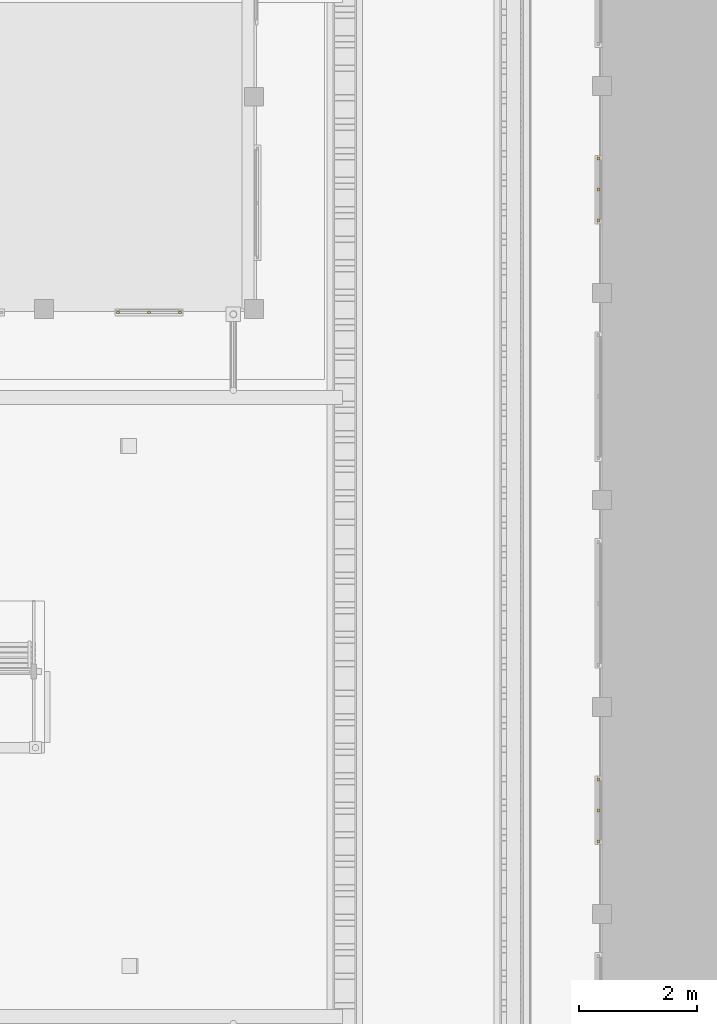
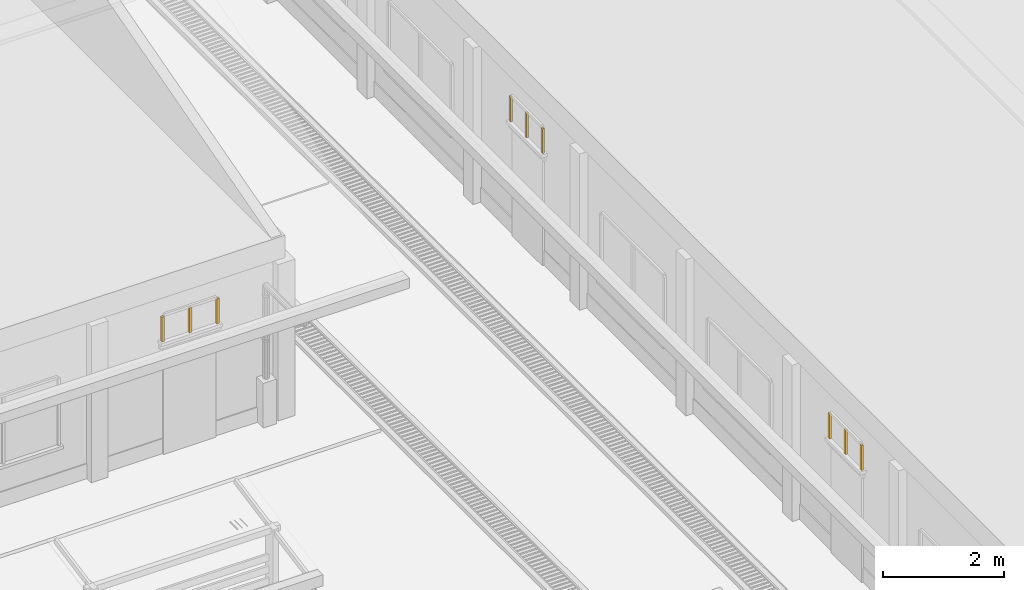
# One storey, part 83 of 151: 9 windows.
"""IFC2X3 building model written with IfcOpenShell, lengths in metres."""

import ifcopenshell
import ifcopenshell.guid

model = None  # the IFC model being written
_history = None  # IfcOwnerHistory: only IFC2X3 demands one
_inside = {}  # id of a spatial element -> (the spatial element, [elements in it])
_under = {}  # id of a project, library or spatial element -> (it, [spatial elements below it])
_declared = {}  # id of a project -> (the project, [libraries it declares])
_typed = {}  # id of a type object -> (the type object, [elements of that type])
_made_of = {}  # id of a material, layer set ... -> (it, [elements and type objects made of it])


def new_model(schema):
    """Start an empty IFC model of exactly this schema.

    Asked for "IFC4X3", IfcOpenShell would pick the latest addendum, in which some entities
    have other attributes; the version numbers below select the first issue.
    IFC2X3 requires an IfcOwnerHistory on every rooted entity: one is made here for all.
    """
    global model, _history
    if schema == "IFC4X3":
        model = ifcopenshell.file(schema_version=(4, 3, 0, 0))
    else:
        model = ifcopenshell.file(schema=schema)
    _inside.clear()
    _under.clear()
    _declared.clear()
    _typed.clear()
    _made_of.clear()
    _history = None
    if model.schema == "IFC2X3":
        org = make("IfcOrganization", Name="unknown")
        user = make(
            "IfcPersonAndOrganization",
            ThePerson=make("IfcPerson", FamilyName="unknown"),
            TheOrganization=org,
        )
        app = make(
            "IfcApplication",
            ApplicationDeveloper=org,
            Version="unknown",
            ApplicationFullName="unknown",
            ApplicationIdentifier="unknown",
        )
        _history = make(
            "IfcOwnerHistory",
            OwningUser=user,
            OwningApplication=app,
            ChangeAction="ADDED",
            CreationDate=0,
        )
    return model


def make(cls, **values):
    """One entity of the class cls with the attributes given. An attribute that is None is left unset."""
    return model.create_entity(
        cls, **{name: value for name, value in values.items() if value is not None}
    )


def rooted(cls, **values):
    """An entity with a GlobalId (a new one), such as an element, a storey or a relation."""
    return make(cls, GlobalId=ifcopenshell.guid.new(), OwnerHistory=_history, **values)


def si_unit(unit_type, name, prefix=None):
    """IfcSIUnit, for example si_unit("LENGTHUNIT", "METRE", prefix="MILLI")."""
    return make("IfcSIUnit", UnitType=unit_type, Prefix=prefix, Name=name)


def assignment(units):
    """IfcUnitAssignment: the units of a project."""
    return None if units is None else make("IfcUnitAssignment", Units=units)


def point(xyz):
    """IfcCartesianPoint."""
    return None if xyz is None else make("IfcCartesianPoint", Coordinates=xyz)


def direction(xyz):
    """IfcDirection."""
    return None if xyz is None else make("IfcDirection", DirectionRatios=xyz)


def frame(location, z_axis=None, x_axis=None):
    """IfcAxis2Placement3D, a coordinate frame: its origin and axes. An axis left out is left unset."""
    return make(
        "IfcAxis2Placement3D",
        Location=point(location),
        Axis=direction(z_axis),
        RefDirection=direction(x_axis),
    )


def origin():
    """The frame at (0, 0, 0) with its axes left unset."""
    return frame((0.0, 0.0, 0.0))


def origin_with_axes():
    """The frame at (0, 0, 0) with the z axis (0, 0, 1) and the x axis (1, 0, 0) written out."""
    return frame((0.0, 0.0, 0.0), z_axis=(0.0, 0.0, 1.0), x_axis=(1.0, 0.0, 0.0))


def place(relative_to, where):
    """IfcLocalPlacement: puts the frame where relative to a parent placement (None: the world)."""
    return make(
        "IfcLocalPlacement", PlacementRelTo=relative_to, RelativePlacement=where
    )


def context(
    kind, dimensions, precision=None, world=None, true_north=None, identifier=None
):
    """IfcGeometricRepresentationContext, for example the 3D "Model" context."""
    return make(
        "IfcGeometricRepresentationContext",
        ContextIdentifier=identifier,
        ContextType=kind,
        CoordinateSpaceDimension=dimensions,
        Precision=precision,
        WorldCoordinateSystem=world,
        TrueNorth=true_north,
    )


def subcontext(parent, identifier, kind, view, scale=None):
    """IfcGeometricRepresentationSubContext, for example "Body" below "Model"."""
    return make(
        "IfcGeometricRepresentationSubContext",
        ContextIdentifier=identifier,
        ContextType=kind,
        ParentContext=parent,
        TargetScale=scale,
        TargetView=view,
    )


def project(units=None, contexts=None):
    """IfcProject with its units and contexts."""
    return rooted(
        "IfcProject",
        Name="project",
        RepresentationContexts=contexts,
        UnitsInContext=assignment(units),
    )


def spatial(cls, under=None, at=None, **own):
    """A site, building, storey or space (cls), placed at a placement, below another one or the project."""
    s = rooted(cls, ObjectPlacement=at, **own)
    if under is not None:
        _under.setdefault(under.id(), (under, []))[1].append(s)
    return s


def faces_of(points, faces, orient=None, outer=None):
    """IfcFace entities. A face is a list of loops; a loop is a list of indices into points, from 0.

    orient and outer hold one flag for each loop. By default every Orientation is true, the
    first loop of a face is its IfcFaceOuterBound and the others are IfcFaceBound.
    """
    made = []
    for i, loops in enumerate(faces):
        bounds = []
        for j, loop in enumerate(loops):
            is_outer = j == 0 if outer is None else outer[i][j]
            bounds.append(
                make(
                    "IfcFaceOuterBound" if is_outer else "IfcFaceBound",
                    Bound=make("IfcPolyLoop", Polygon=[points[k] for k in loop]),
                    Orientation=True if orient is None else orient[i][j],
                )
            )
        made.append(make("IfcFace", Bounds=bounds))
    return made


def faceted_brep(points, faces, orient=None, outer=None, voids=None):
    """IfcFacetedBrep: a solid bounded by flat faces; with voids (closed shells), ...WithVoids."""
    shared = [point(p) for p in points]
    hull = make("IfcClosedShell", CfsFaces=faces_of(shared, faces, orient, outer))
    if voids is None:
        return make("IfcFacetedBrep", Outer=hull)
    return make(
        "IfcFacetedBrepWithVoids",
        Outer=hull,
        Voids=[
            make(cls, CfsFaces=faces_of(shared, fs, o, b)) for cls, fs, o, b in voids
        ],
    )


def shape(context_of_items, identifier, shape_type, items):
    """IfcShapeRepresentation: the items that make up one representation, for example the "Body"."""
    return make(
        "IfcShapeRepresentation",
        ContextOfItems=context_of_items,
        RepresentationIdentifier=identifier,
        RepresentationType=shape_type,
        Items=items,
    )


def made_of(thing, what):
    """Note that an element or type object is made of a material, layer set ...; save() writes the relation."""
    if what is not None:
        _made_of.setdefault(what.id(), (what, []))[1].append(thing)
    return thing


def element(
    cls,
    number,
    at=None,
    inside=None,
    cuts=None,
    type_object=None,
    material=None,
    context=None,
    identifier="Body",
    shape_type=None,
    held_by="IfcProductDefinitionShape",
    body=None,
    shapes=None,
    **own,
):
    """One element of the class cls, such as IfcWall. Its Tag is "e" and its number.

    at: its placement. inside: the storey or other place that contains it. cuts: it is an
    opening in that element (IfcRelVoidsElement). A single representation is given by context,
    identifier, shape_type and body (its items); several are given by shapes. held_by: the class
    of the entity that holds the representations. save() writes the other relations.
    """
    e = rooted(cls, Tag="e%d" % number, ObjectPlacement=at, **own)
    if body is not None:
        shapes = [shape(context, identifier, shape_type, body)]
    if shapes is not None:
        e.Representation = make(held_by, Representations=shapes)
    if inside is not None:
        _inside.setdefault(inside.id(), (inside, []))[1].append(e)
    if cuts is not None:
        rooted(
            "IfcRelVoidsElement", RelatingBuildingElement=cuts, RelatedOpeningElement=e
        )
    if type_object is not None:
        _typed.setdefault(type_object.id(), (type_object, []))[1].append(e)
    return made_of(e, material)


def aggregate(whole, parts):
    """IfcRelAggregates: a whole, such as a stair, and the parts it consists of."""
    return rooted("IfcRelAggregates", RelatingObject=whole, RelatedObjects=parts)


def save(model, path):
    """Write the relations noted so far, then the file.

    IfcRelAggregates (storeys below a building ...), IfcRelContainedInSpatialStructure (elements
    in a storey), IfcRelDefinesByType, IfcRelAssociatesMaterial and IfcRelDeclares: one each for
    every whole, place, type object, material and project.
    """
    for whole, parts in _under.values():
        aggregate(whole, parts)
    for where, things in _inside.values():
        rooted(
            "IfcRelContainedInSpatialStructure",
            RelatedElements=things,
            RelatingStructure=where,
        )
    for kind, things in _typed.values():
        rooted("IfcRelDefinesByType", RelatedObjects=things, RelatingType=kind)
    for what, things in _made_of.values():
        rooted("IfcRelAssociatesMaterial", RelatedObjects=things, RelatingMaterial=what)
    for by, libraries in _declared.values():
        rooted("IfcRelDeclares", RelatingContext=by, RelatedDefinitions=libraries)
    model.write(path)


model = new_model("IFC2X3")

# Units and contexts
model_context = context("Model", 3, precision=1e-05, world=origin_with_axes())
body_context = subcontext(model_context, "Body", "Model", "MODEL_VIEW")
ifc_project = project(units=[si_unit("LENGTHUNIT", "METRE"), si_unit("AREAUNIT", "SQUARE_METRE"), si_unit("VOLUMEUNIT", "CUBIC_METRE"), si_unit("PLANEANGLEUNIT", "RADIAN")], contexts=[model_context])

# Site, building, storey
site_placement = place(None, origin_with_axes())
site = spatial("IfcSite", under=ifc_project, at=site_placement, Name="Predio Los Mangos - Morales, San Martín", CompositionType="ELEMENT")
building_placement = place(site_placement, origin())
building = spatial("IfcBuilding", under=site, at=building_placement, Name="Hogar de Refugio Temporal", CompositionType="ELEMENT")
storey_placement = place(building_placement, origin())
storey = spatial("IfcBuildingStorey", under=building, at=storey_placement, Name="NIVEL 1 (NPT +0.00)", CompositionType="ELEMENT", Elevation=0.0)

# Windows
window_1_placement = place(storey_placement, origin())
element("IfcWindow", 1, at=window_1_placement, inside=storey, Name="E-08_vt4_m", ObjectType="Ventana", context=body_context, shape_type="Brep", body=[
    faceted_brep([(47.47, 116.92, 2.45), (47.47, 116.96, 2.45), (47.52, 116.96, 2.45), (47.52, 116.92, 2.45), (47.47, 116.92, 2.95), (47.52, 116.92, 2.95), (47.52, 116.96, 2.95), (47.47, 116.96, 2.95)], [[[0, 1, 2, 3]], [[4, 5, 6, 7]], [[0, 3, 5, 4]], [[3, 2, 6, 5]], [[2, 1, 7, 6]], [[1, 0, 4, 7]]]),
])
window_2_placement = place(storey_placement, origin())
element("IfcWindow", 2, at=window_2_placement, inside=storey, Name="E-08_vt4_m", ObjectType="Ventana", context=body_context, shape_type="Brep", body=[
    faceted_brep([(48.52, 116.92, 2.45), (48.52, 116.96, 2.45), (48.57, 116.96, 2.45), (48.57, 116.92, 2.45), (48.52, 116.92, 2.95), (48.57, 116.92, 2.95), (48.57, 116.96, 2.95), (48.52, 116.96, 2.95)], [[[0, 1, 2, 3]], [[4, 5, 6, 7]], [[0, 3, 5, 4]], [[3, 2, 6, 5]], [[2, 1, 7, 6]], [[1, 0, 4, 7]]]),
])
window_3_placement = place(storey_placement, origin())
element("IfcWindow", 3, at=window_3_placement, inside=storey, Name="E-08_vt4_m", ObjectType="Ventana", context=body_context, shape_type="Brep", body=[
    faceted_brep([(47.995, 116.92, 2.45), (47.995, 116.96, 2.45), (48.045, 116.96, 2.45), (48.045, 116.92, 2.45), (47.995, 116.92, 2.95), (48.045, 116.92, 2.95), (48.045, 116.96, 2.95), (47.995, 116.96, 2.95)], [[[0, 1, 2, 3]], [[4, 5, 6, 7]], [[0, 3, 5, 4]], [[3, 2, 6, 5]], [[2, 1, 7, 6]], [[1, 0, 4, 7]]]),
])
window_4_placement = place(storey_placement, origin())
element("IfcWindow", 4, at=window_4_placement, inside=storey, Name="E-07_vt4_m", ObjectType="Ventana", context=body_context, shape_type="Brep", body=[
    faceted_brep([(55.62, 107.945, 2.45), (55.62, 107.995, 2.45), (55.66, 107.995, 2.45), (55.66, 107.945, 2.45), (55.62, 107.945, 2.95), (55.66, 107.945, 2.95), (55.66, 107.995, 2.95), (55.62, 107.995, 2.95)], [[[0, 1, 2, 3]], [[4, 5, 6, 7]], [[0, 3, 5, 4]], [[3, 2, 6, 5]], [[2, 1, 7, 6]], [[1, 0, 4, 7]]]),
])
window_5_placement = place(storey_placement, origin())
element("IfcWindow", 5, at=window_5_placement, inside=storey, Name="E-07_vt4_m", ObjectType="Ventana", context=body_context, shape_type="Brep", body=[
    faceted_brep([(55.62, 108.995, 2.45), (55.62, 109.045, 2.45), (55.66, 109.045, 2.45), (55.66, 108.995, 2.45), (55.62, 108.995, 2.95), (55.66, 108.995, 2.95), (55.66, 109.045, 2.95), (55.62, 109.045, 2.95)], [[[0, 1, 2, 3]], [[4, 5, 6, 7]], [[0, 3, 5, 4]], [[3, 2, 6, 5]], [[2, 1, 7, 6]], [[1, 0, 4, 7]]]),
])
window_6_placement = place(storey_placement, origin())
element("IfcWindow", 6, at=window_6_placement, inside=storey, Name="E-07_vt4_m", ObjectType="Ventana", context=body_context, shape_type="Brep", body=[
    faceted_brep([(55.62, 108.47, 2.45), (55.62, 108.52, 2.45), (55.66, 108.52, 2.45), (55.66, 108.47, 2.45), (55.62, 108.47, 2.95), (55.66, 108.47, 2.95), (55.66, 108.52, 2.95), (55.62, 108.52, 2.95)], [[[0, 1, 2, 3]], [[4, 5, 6, 7]], [[0, 3, 5, 4]], [[3, 2, 6, 5]], [[2, 1, 7, 6]], [[1, 0, 4, 7]]]),
])
window_7_placement = place(storey_placement, origin())
element("IfcWindow", 7, at=window_7_placement, inside=storey, Name="E-07_vt7_m", ObjectType="Ventana", context=body_context, shape_type="Brep", body=[
    faceted_brep([(55.62, 118.475, 2.45), (55.62, 118.525, 2.45), (55.66, 118.525, 2.45), (55.66, 118.475, 2.45), (55.62, 118.475, 2.95), (55.66, 118.475, 2.95), (55.66, 118.525, 2.95), (55.62, 118.525, 2.95)], [[[0, 1, 2, 3]], [[4, 5, 6, 7]], [[0, 3, 5, 4]], [[3, 2, 6, 5]], [[2, 1, 7, 6]], [[1, 0, 4, 7]]]),
])
window_8_placement = place(storey_placement, origin())
element("IfcWindow", 8, at=window_8_placement, inside=storey, Name="E-07_vt7_m", ObjectType="Ventana", context=body_context, shape_type="Brep", body=[
    faceted_brep([(55.62, 119.525, 2.45), (55.62, 119.575, 2.45), (55.66, 119.575, 2.45), (55.66, 119.525, 2.45), (55.62, 119.525, 2.95), (55.66, 119.525, 2.95), (55.66, 119.575, 2.95), (55.62, 119.575, 2.95)], [[[0, 1, 2, 3]], [[4, 5, 6, 7]], [[0, 3, 5, 4]], [[3, 2, 6, 5]], [[2, 1, 7, 6]], [[1, 0, 4, 7]]]),
])
window_9_placement = place(storey_placement, origin())
element("IfcWindow", 9, at=window_9_placement, inside=storey, Name="E-07_vt7_m", ObjectType="Ventana", context=body_context, shape_type="Brep", body=[
    faceted_brep([(55.62, 119.0, 2.45), (55.62, 119.05, 2.45), (55.66, 119.05, 2.45), (55.66, 119.0, 2.45), (55.62, 119.0, 2.95), (55.66, 119.0, 2.95), (55.66, 119.05, 2.95), (55.62, 119.05, 2.95)], [[[0, 1, 2, 3]], [[4, 5, 6, 7]], [[0, 3, 5, 4]], [[3, 2, 6, 5]], [[2, 1, 7, 6]], [[1, 0, 4, 7]]]),
])

save(model, "model.ifc")
